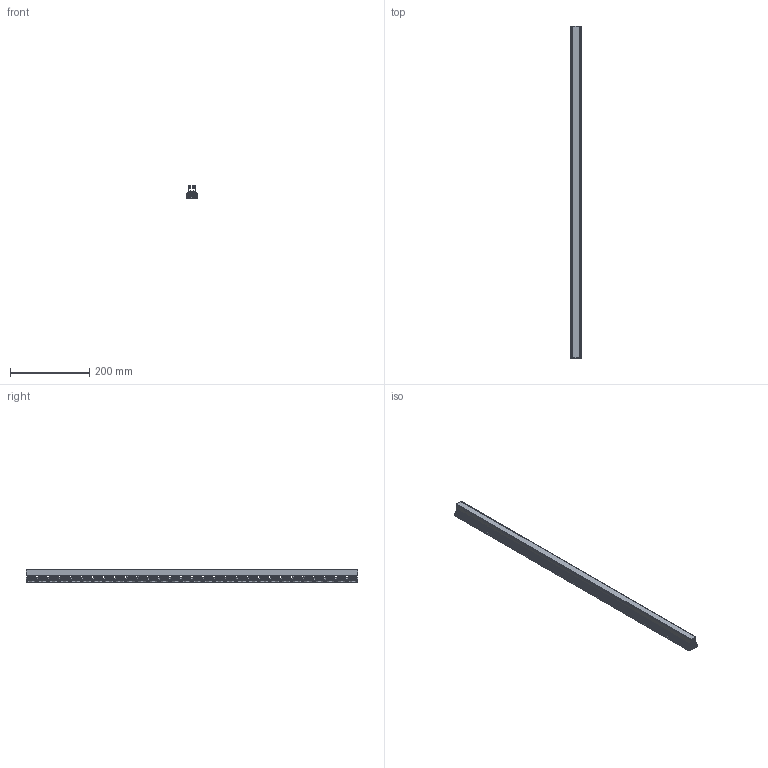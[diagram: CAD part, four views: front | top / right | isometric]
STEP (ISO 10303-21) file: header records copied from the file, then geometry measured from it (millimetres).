
FILE_DESCRIPTION(/* description */ (''),/* implementation_level */ '2;1');
FILE_NAME(/* name */ 'Somnium System 840mm_semplificato.stp',/* time_stamp */ '2025-02-18T17:09:32+01:00',/* author */ (''),/* organization */ (''),/* preprocessor_version */ 'ST-DEVELOPER v19.3',/* originating_system */ 'SIEMENS PLM Software NX2212.5000',/* authorisation */ '');
FILE_SCHEMA (('AUTOMOTIVE_DESIGN { 1 0 10303 214 3 1 1 1 }'));
Products named in the file (4): 009858_--SOMNIUM DIFFUSORE semplificato; 009856_--SOMNIUM ESTRUSO LINEARE semplificato; 009859_--SOMNIUM LENTE LINEARE semplificata; 009855_--SOMNIUM semplificato
Assembly tree (8 placements, depth 2):
  009855_--SOMNIUM semplificato
    009859_--SOMNIUM LENTE LINEARE semplificata  x6
    009856_--SOMNIUM ESTRUSO LINEARE semplificato
    009858_--SOMNIUM DIFFUSORE semplificato
Bounding box: 30.15 x 840 x 32.35 mm (x, y, z)
Volume: 213890.3 mm3; surface area: 248981.8 mm2
Topology: 8 solids, 8 shells, 4536 faces, 12438 edges, 7948 vertices
Faces by surface type: bspline 3120, cylinder 988, plane 398, revolution 30
Entity records: 42035 total; most frequent: CARTESIAN_POINT 26275, ORIENTED_EDGE 4406, EDGE_CURVE 2203, B_SPLINE_CURVE_WITH_KNOTS 1678, VERTEX_POINT 1418, DIRECTION 1331, EDGE_LOOP 816, ADVANCED_FACE 806
